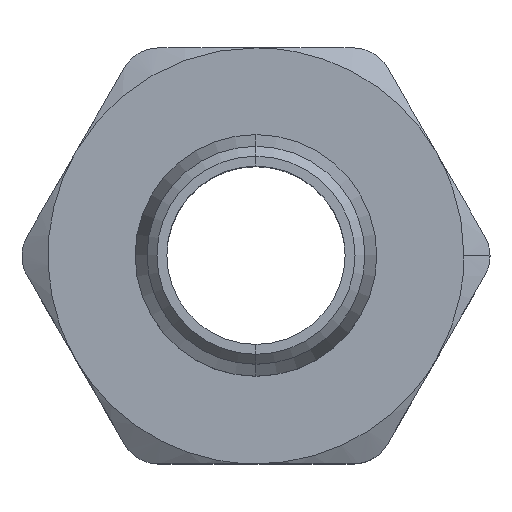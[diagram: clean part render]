
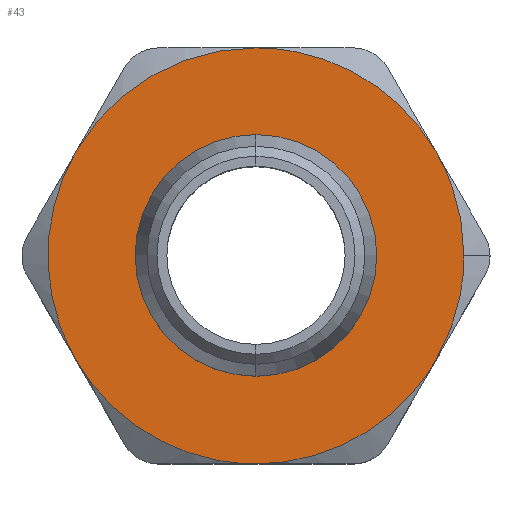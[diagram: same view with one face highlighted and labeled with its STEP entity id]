
A CAD part, top view. The second image highlights one B-rep face of the part: STEP entity #43.
In plain terms, the highlighted planar face has unit normal (0, 0, 1).
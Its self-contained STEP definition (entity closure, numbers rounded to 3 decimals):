
#15=FACE_BOUND('',#177,.T.);
#43=ADVANCED_FACE('',(#109,#15),#982,.T.);
#109=FACE_OUTER_BOUND('',#176,.T.);
#176=EDGE_LOOP('',(#343,#344,#345,#346,#347,#348,#349));
#177=EDGE_LOOP('',(#350,#351));
#343=ORIENTED_EDGE('',*,*,#552,.T.);
#344=ORIENTED_EDGE('',*,*,#553,.T.);
#345=ORIENTED_EDGE('',*,*,#554,.T.);
#346=ORIENTED_EDGE('',*,*,#555,.T.);
#347=ORIENTED_EDGE('',*,*,#556,.T.);
#348=ORIENTED_EDGE('',*,*,#557,.T.);
#349=ORIENTED_EDGE('',*,*,#558,.T.);
#350=ORIENTED_EDGE('',*,*,#608,.T.);
#351=ORIENTED_EDGE('',*,*,#647,.T.);
#552=EDGE_CURVE('',#876,#865,#648,.T.);
#553=EDGE_CURVE('',#865,#862,#649,.T.);
#554=EDGE_CURVE('',#862,#858,#757,.T.);
#555=EDGE_CURVE('',#858,#875,#650,.T.);
#556=EDGE_CURVE('',#875,#872,#651,.T.);
#557=EDGE_CURVE('',#872,#869,#652,.T.);
#558=EDGE_CURVE('',#869,#876,#653,.T.);
#608=EDGE_CURVE('',#900,#921,#770,.T.);
#647=EDGE_CURVE('',#921,#900,#791,.T.);
#648=(
BOUNDED_CURVE()
B_SPLINE_CURVE(2,(#2028,#2029,#2030),.UNSPECIFIED.,.F.,.F.)
B_SPLINE_CURVE_WITH_KNOTS((3,3),(0.,6.765),.UNSPECIFIED.)
CURVE()
GEOMETRIC_REPRESENTATION_ITEM()
RATIONAL_B_SPLINE_CURVE((1.,0.966,1.))
REPRESENTATION_ITEM('')
);
#649=(
BOUNDED_CURVE()
B_SPLINE_CURVE(2,(#2031,#2032,#2033),.UNSPECIFIED.,.F.,.F.)
B_SPLINE_CURVE_WITH_KNOTS((3,3),(6.765,20.296),
 .UNSPECIFIED.)
CURVE()
GEOMETRIC_REPRESENTATION_ITEM()
RATIONAL_B_SPLINE_CURVE((1.,0.866,1.))
REPRESENTATION_ITEM('')
);
#650=(
BOUNDED_CURVE()
B_SPLINE_CURVE(2,(#2037,#2038,#2039),.UNSPECIFIED.,.F.,.F.)
B_SPLINE_CURVE_WITH_KNOTS((3,3),(33.826,47.357),
 .UNSPECIFIED.)
CURVE()
GEOMETRIC_REPRESENTATION_ITEM()
RATIONAL_B_SPLINE_CURVE((1.,0.866,1.))
REPRESENTATION_ITEM('')
);
#651=(
BOUNDED_CURVE()
B_SPLINE_CURVE(2,(#2040,#2041,#2042),.UNSPECIFIED.,.F.,.F.)
B_SPLINE_CURVE_WITH_KNOTS((3,3),(47.357,60.887),
 .UNSPECIFIED.)
CURVE()
GEOMETRIC_REPRESENTATION_ITEM()
RATIONAL_B_SPLINE_CURVE((1.,0.866,1.))
REPRESENTATION_ITEM('')
);
#652=(
BOUNDED_CURVE()
B_SPLINE_CURVE(2,(#2043,#2044,#2045),.UNSPECIFIED.,.F.,.F.)
B_SPLINE_CURVE_WITH_KNOTS((3,3),(60.887,74.418),
 .UNSPECIFIED.)
CURVE()
GEOMETRIC_REPRESENTATION_ITEM()
RATIONAL_B_SPLINE_CURVE((1.,0.866,1.))
REPRESENTATION_ITEM('')
);
#653=(
BOUNDED_CURVE()
B_SPLINE_CURVE(2,(#2046,#2047,#2048),.UNSPECIFIED.,.F.,.F.)
B_SPLINE_CURVE_WITH_KNOTS((3,3),(74.418,81.183),
 .UNSPECIFIED.)
CURVE()
GEOMETRIC_REPRESENTATION_ITEM()
RATIONAL_B_SPLINE_CURVE((1.,0.966,1.))
REPRESENTATION_ITEM('')
);
#757=TRIMMED_CURVE($,#807,(#2035),(#2036),.T.,.CARTESIAN.);
#770=TRIMMED_CURVE($,#820,(#2234),(#2235),.T.,.CARTESIAN.);
#791=TRIMMED_CURVE($,#841,(#2333),(#2334),.T.,.CARTESIAN.);
#807=CIRCLE('',#1127,10.5);
#820=CIRCLE('',#1140,6.);
#841=CIRCLE('',#1161,6.);
#858=VERTEX_POINT('',#1778);
#862=VERTEX_POINT('',#1782);
#865=VERTEX_POINT('',#1785);
#869=VERTEX_POINT('',#1789);
#872=VERTEX_POINT('',#1792);
#875=VERTEX_POINT('',#1795);
#876=VERTEX_POINT('',#1796);
#900=VERTEX_POINT('',#1820);
#921=VERTEX_POINT('',#1841);
#982=PLANE('',#1097);
#1097=AXIS2_PLACEMENT_3D('',#1385,#1186,$);
#1127=AXIS2_PLACEMENT_3D($,#2034,#1231,#1232);
#1140=AXIS2_PLACEMENT_3D($,#2233,#1257,#1258);
#1161=AXIS2_PLACEMENT_3D($,#2332,#1299,#1300);
#1186=DIRECTION('',(0.,0.,1.));
#1231=DIRECTION('',(0.,0.,1.));
#1232=DIRECTION('',(0.,1.,0.));
#1257=DIRECTION('',(0.,0.,-1.));
#1258=DIRECTION('',(0.,1.,0.));
#1299=DIRECTION('',(0.,0.,-1.));
#1300=DIRECTION('',(0.,-1.,0.));
#1385=CARTESIAN_POINT('',(127663.564,-54260.45,0.));
#1778=CARTESIAN_POINT('',(127666.838,-54265.91,0.));
#1782=CARTESIAN_POINT('',(127675.931,-54260.66,0.));
#1785=CARTESIAN_POINT('',(127685.024,-54265.91,0.));
#1789=CARTESIAN_POINT('',(127685.024,-54276.41,0.));
#1792=CARTESIAN_POINT('',(127675.931,-54281.66,0.));
#1795=CARTESIAN_POINT('',(127666.838,-54276.41,0.));
#1796=CARTESIAN_POINT('',(127686.431,-54271.16,0.));
#1820=CARTESIAN_POINT('',(127675.931,-54265.16,0.));
#1841=CARTESIAN_POINT('',(127675.931,-54277.16,0.));
#2028=CARTESIAN_POINT('',(127686.431,-54271.16,0.));
#2029=CARTESIAN_POINT('',(127686.431,-54268.347,0.));
#2030=CARTESIAN_POINT('',(127685.024,-54265.91,0.));
#2031=CARTESIAN_POINT('',(127685.024,-54265.91,0.));
#2032=CARTESIAN_POINT('',(127681.993,-54260.66,0.));
#2033=CARTESIAN_POINT('',(127675.931,-54260.66,0.));
#2034=CARTESIAN_POINT('',(127675.931,-54271.16,0.));
#2035=CARTESIAN_POINT('',(127675.931,-54260.66,0.));
#2036=CARTESIAN_POINT('',(127666.838,-54265.91,0.));
#2037=CARTESIAN_POINT('',(127666.838,-54265.91,0.));
#2038=CARTESIAN_POINT('',(127663.807,-54271.16,0.));
#2039=CARTESIAN_POINT('',(127666.838,-54276.41,0.));
#2040=CARTESIAN_POINT('',(127666.838,-54276.41,0.));
#2041=CARTESIAN_POINT('',(127669.869,-54281.66,0.));
#2042=CARTESIAN_POINT('',(127675.931,-54281.66,0.));
#2043=CARTESIAN_POINT('',(127675.931,-54281.66,0.));
#2044=CARTESIAN_POINT('',(127681.993,-54281.66,0.));
#2045=CARTESIAN_POINT('',(127685.024,-54276.41,0.));
#2046=CARTESIAN_POINT('',(127685.024,-54276.41,0.));
#2047=CARTESIAN_POINT('',(127686.431,-54273.974,0.));
#2048=CARTESIAN_POINT('',(127686.431,-54271.16,0.));
#2233=CARTESIAN_POINT('',(127675.931,-54271.16,0.));
#2234=CARTESIAN_POINT('',(127675.931,-54265.16,0.));
#2235=CARTESIAN_POINT('',(127675.931,-54277.16,0.));
#2332=CARTESIAN_POINT('',(127675.931,-54271.16,0.));
#2333=CARTESIAN_POINT('',(127675.931,-54277.16,0.));
#2334=CARTESIAN_POINT('',(127675.931,-54265.16,0.));
